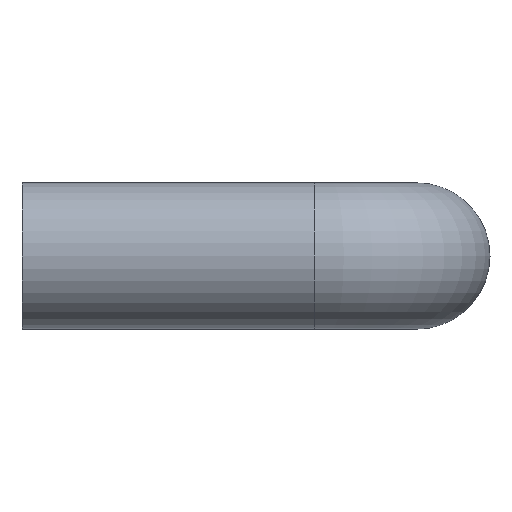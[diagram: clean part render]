
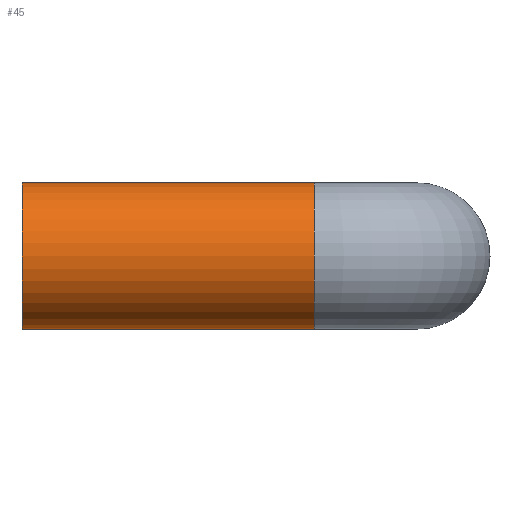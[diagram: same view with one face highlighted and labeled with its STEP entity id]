
A CAD part, left-side view. The second image highlights one B-rep face of the part: STEP entity #45.
In plain terms, the highlighted cylindrical face has radius 5 mm (diameter 10 mm), a full revolution.
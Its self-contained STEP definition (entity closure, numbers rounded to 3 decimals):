
#45 = ADVANCED_FACE( '', ( #93, #94 ), #95, .T. );
#93 = FACE_OUTER_BOUND( '', #142, .T. );
#94 = FACE_OUTER_BOUND( '', #143, .T. );
#95 = CYLINDRICAL_SURFACE( '', #144, 5. );
#142 = EDGE_LOOP( '', ( #195 ) );
#143 = EDGE_LOOP( '', ( #196 ) );
#144 = AXIS2_PLACEMENT_3D( '', #197, #198, #199 );
#195 = ORIENTED_EDGE( '', *, *, #243, .F. );
#196 = ORIENTED_EDGE( '', *, *, #244, .F. );
#197 = CARTESIAN_POINT( '', ( 0., -20., 0. ) );
#198 = DIRECTION( '', ( 0., -1., 0. ) );
#199 = DIRECTION( '', ( 0., 0., 1. ) );
#243 = EDGE_CURVE( '', #272, #272, #273, .T. );
#244 = EDGE_CURVE( '', #274, #274, #275, .T. );
#272 = VERTEX_POINT( '', #303 );
#273 = CIRCLE( '', #304, 5. );
#274 = VERTEX_POINT( '', #305 );
#275 = CIRCLE( '', #306, 5. );
#303 = CARTESIAN_POINT( '', ( -5., -20., 0. ) );
#304 = AXIS2_PLACEMENT_3D( '', #336, #337, #338 );
#305 = CARTESIAN_POINT( '', ( 5., 0., 0. ) );
#306 = AXIS2_PLACEMENT_3D( '', #339, #340, #341 );
#336 = CARTESIAN_POINT( '', ( 0., -20., 0. ) );
#337 = DIRECTION( '', ( 0., -1., 0. ) );
#338 = DIRECTION( '', ( -1., 0., 0. ) );
#339 = CARTESIAN_POINT( '', ( 0., 0., 0. ) );
#340 = DIRECTION( '', ( 0., 1., 0. ) );
#341 = DIRECTION( '', ( 1., 0., 0. ) );
